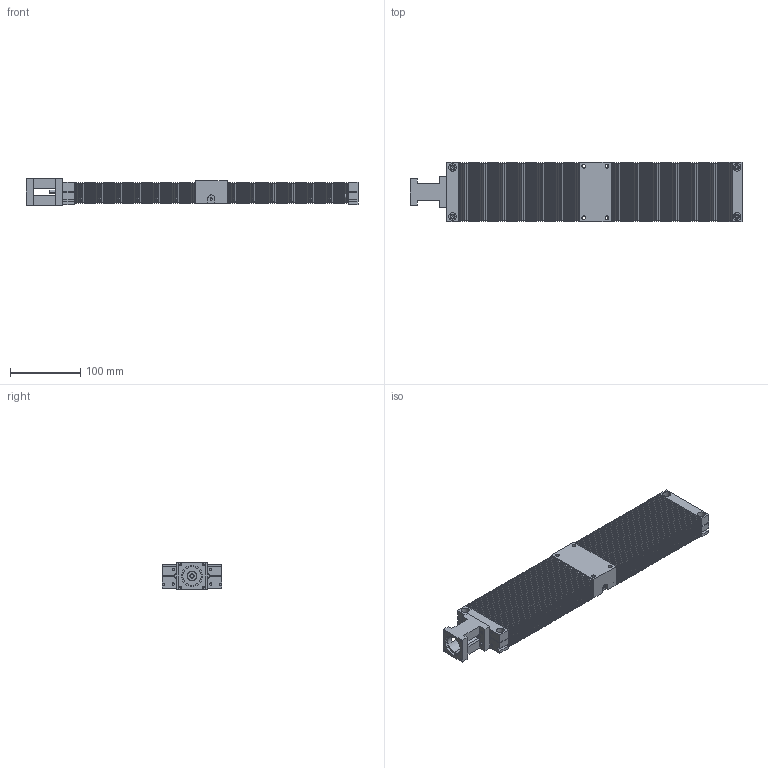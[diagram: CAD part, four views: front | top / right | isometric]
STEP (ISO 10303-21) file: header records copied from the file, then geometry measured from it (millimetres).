
FILE_DESCRIPTION (( 'STEP AP214' ), '1' );
FILE_NAME ('TKC0802B-200-F0-C-潠眢耀郪-20240914.STEP', '2024-09-14T03:44:55', ( '' ), ( '' ), 'SwSTEP 2.0', 'SolidWorks 2020', '' );
FILE_SCHEMA (( 'AUTOMOTIVE_DESIGN' ));
Length unit declared in the file: millimetre
Products named in the file (6): TKC0802B-200-F0-C-潠眢耀郪-20240914; 鎮湛釱-100W; tkc08-盓傅釱; tkc08-200-嘐隅盓傅釱; TKC08-200-瑞р欶; tkc08-賑怢
Assembly tree (6 placements, depth 2):
  TKC0802B-200-F0-C-潠眢耀郪-20240914
    tkc08-盓傅釱
    tkc08-賑怢
    tkc08-200-嘐隅盓傅釱
    TKC08-200-瑞р欶  x2
    鎮湛釱-100W
Bounding box: 472 x 85 x 38 mm (x, y, z)
Volume: 522816.4 mm3; surface area: 366482.3 mm2
Topology: 62 solids, 62 shells, 2312 faces, 4953 edges, 2702 vertices
Faces by surface type: plane 1620, cylinder 387, bspline 169, cone 128, torus 8
Entity records: 59783 total; most frequent: CARTESIAN_POINT 15018, DIRECTION 6966, ORIENTED_EDGE 6890, EDGE_CURVE 3445, AXIS2_PLACEMENT_3D 2418, LINE 2130, VECTOR 2130, VERTEX_POINT 2006
